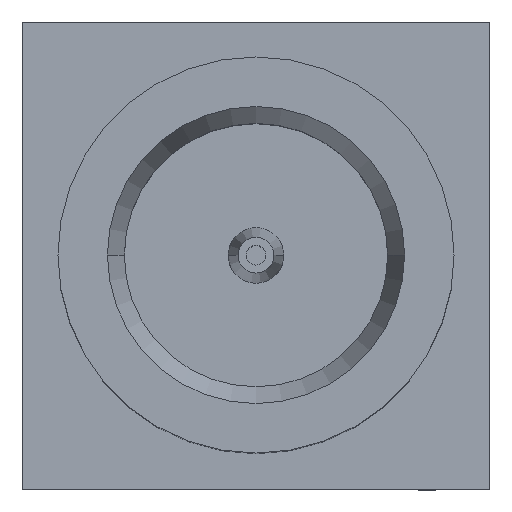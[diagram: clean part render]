
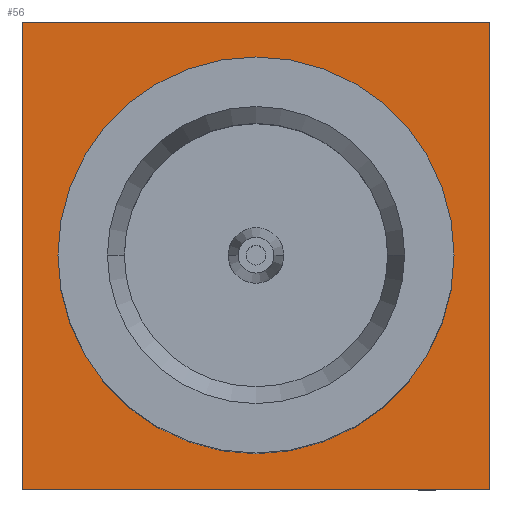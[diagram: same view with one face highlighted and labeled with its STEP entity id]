
A CAD part, top view. The second image highlights one B-rep face of the part: STEP entity #56.
In plain terms, the highlighted planar face has unit normal (0, 0, 1).
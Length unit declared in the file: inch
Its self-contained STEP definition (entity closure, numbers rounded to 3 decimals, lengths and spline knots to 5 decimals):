
#21 = VERTEX_POINT ( 'NONE', #617 ) ;
#42 = EDGE_CURVE ( 'NONE', #166, #21, #666, .T. ) ;
#52 = ORIENTED_EDGE ( 'NONE', *, *, #42, .F. ) ;
#56 = ADVANCED_FACE ( 'NONE', ( #710, #715 ), #713, .T. ) ;
#57 = EDGE_LOOP ( 'NONE', ( #75, #330, #77, #66 ) ) ;
#64 = EDGE_CURVE ( 'NONE', #90, #65, #678, .T. ) ;
#65 = VERTEX_POINT ( 'NONE', #734 ) ;
#66 = ORIENTED_EDGE ( 'NONE', *, *, #67, .T. ) ;
#67 = EDGE_CURVE ( 'NONE', #65, #84, #739, .T. ) ;
#68 = EDGE_LOOP ( 'NONE', ( #69, #52 ) ) ;
#69 = ORIENTED_EDGE ( 'NONE', *, *, #70, .F. ) ;
#70 = EDGE_CURVE ( 'NONE', #21, #166, #735, .T. ) ;
#75 = ORIENTED_EDGE ( 'NONE', *, *, #76, .T. ) ;
#76 = EDGE_CURVE ( 'NONE', #84, #91, #724, .T. ) ;
#77 = ORIENTED_EDGE ( 'NONE', *, *, #64, .T. ) ;
#84 = VERTEX_POINT ( 'NONE', #755 ) ;
#89 = EDGE_CURVE ( 'NONE', #91, #90, #821, .T. ) ;
#90 = VERTEX_POINT ( 'NONE', #817 ) ;
#91 = VERTEX_POINT ( 'NONE', #816 ) ;
#166 = VERTEX_POINT ( 'NONE', #879 ) ;
#330 = ORIENTED_EDGE ( 'NONE', *, *, #89, .T. ) ;
#600 = AXIS2_PLACEMENT_3D ( 'NONE', #606, #601, #609 ) ;
#601 = DIRECTION ( 'NONE',  ( 0., 0., 1. ) ) ;
#606 = CARTESIAN_POINT ( 'NONE',  ( 0., 0., 0.055 ) ) ;
#609 = DIRECTION ( 'NONE',  ( 1., 0., 0. ) ) ;
#617 = CARTESIAN_POINT ( 'NONE',  ( -0.1, 0., 0.055 ) ) ;
#636 = DIRECTION ( 'NONE',  ( 0., 1., 0. ) ) ;
#641 = VECTOR ( 'NONE', #636, 39.37008 ) ;
#666 = CIRCLE ( 'NONE', #600, 0.1 ) ;
#677 = CARTESIAN_POINT ( 'NONE',  ( 0.118, 0.118, 0.055 ) ) ;
#678 = LINE ( 'NONE', #677, #641 ) ;
#707 = DIRECTION ( 'NONE',  ( 1., 0., 0. ) ) ;
#708 = DIRECTION ( 'NONE',  ( 0., 0., 1. ) ) ;
#709 = CARTESIAN_POINT ( 'NONE',  ( -0.118, -0.118, 0.055 ) ) ;
#710 = FACE_OUTER_BOUND ( 'NONE', #57, .T. ) ;
#713 = PLANE ( 'NONE',  #714 ) ;
#714 = AXIS2_PLACEMENT_3D ( 'NONE', #709, #708, #707 ) ;
#715 = FACE_BOUND ( 'NONE', #68, .T. ) ;
#721 = DIRECTION ( 'NONE',  ( 0., -1., 0. ) ) ;
#722 = VECTOR ( 'NONE', #721, 39.37008 ) ;
#723 = CARTESIAN_POINT ( 'NONE',  ( -0.118, 0.118, 0.055 ) ) ;
#724 = LINE ( 'NONE', #723, #722 ) ;
#730 = DIRECTION ( 'NONE',  ( 0., 0., 1. ) ) ;
#731 = CARTESIAN_POINT ( 'NONE',  ( 0., 0., 0.055 ) ) ;
#732 = AXIS2_PLACEMENT_3D ( 'NONE', #731, #730, #741 ) ;
#734 = CARTESIAN_POINT ( 'NONE',  ( 0.118, 0.118, 0.055 ) ) ;
#735 = CIRCLE ( 'NONE', #732, 0.1 ) ;
#736 = DIRECTION ( 'NONE',  ( -1., 0., 0. ) ) ;
#737 = VECTOR ( 'NONE', #736, 39.37008 ) ;
#738 = CARTESIAN_POINT ( 'NONE',  ( -0.118, 0.118, 0.055 ) ) ;
#739 = LINE ( 'NONE', #738, #737 ) ;
#741 = DIRECTION ( 'NONE',  ( 1., 0., 0. ) ) ;
#755 = CARTESIAN_POINT ( 'NONE',  ( -0.118, 0.118, 0.055 ) ) ;
#816 = CARTESIAN_POINT ( 'NONE',  ( -0.118, -0.118, 0.055 ) ) ;
#817 = CARTESIAN_POINT ( 'NONE',  ( 0.118, -0.118, 0.055 ) ) ;
#818 = DIRECTION ( 'NONE',  ( 1., 0., 0. ) ) ;
#819 = VECTOR ( 'NONE', #818, 39.37008 ) ;
#820 = CARTESIAN_POINT ( 'NONE',  ( -0.118, -0.118, 0.055 ) ) ;
#821 = LINE ( 'NONE', #820, #819 ) ;
#879 = CARTESIAN_POINT ( 'NONE',  ( 0.1, 0., 0.055 ) ) ;
